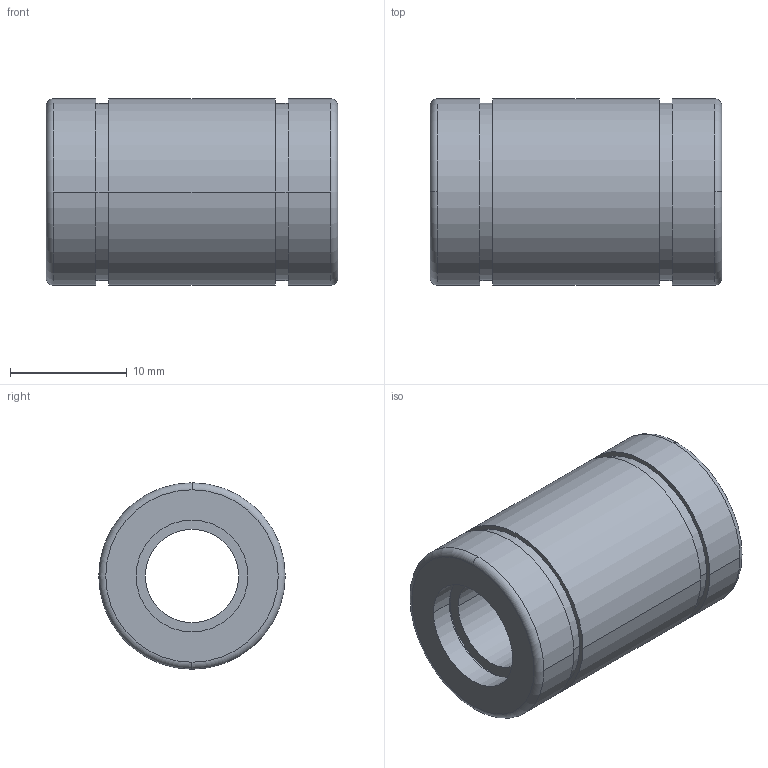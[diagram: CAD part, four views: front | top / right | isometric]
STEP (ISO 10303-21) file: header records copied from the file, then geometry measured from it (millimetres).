
FILE_DESCRIPTION( ( '' ), '1' );
FILE_NAME( '//partserver001.servicenet/client_exchange/iodir/jobs/output/wkb20114415_no0/STEP/ub_08a_ww_2_03.stp', '2009-11-12T13:10:48', ( '' ), ( '' ), ' ', ' ', ' ' );
FILE_SCHEMA( ( 'CONFIG_CONTROL_DESIGN' ) );
Length unit declared in the file: millimetre
Products named in the file (1): 1
Bounding box: 25 x 16 x 16 mm (x, y, z)
Volume: 3618.4 mm3; surface area: 2280.7 mm2
Topology: 1 solids, 1 shells, 34 faces, 74 edges, 50 vertices
Faces by surface type: cylinder 20, plane 10, torus 4
Entity records: 1016 total; most frequent: DIRECTION 198, CARTESIAN_POINT 159, ORIENTED_EDGE 148, AXIS2_PLACEMENT_3D 89, EDGE_CURVE 74, CIRCLE 54, VERTEX_POINT 50, EDGE_LOOP 44
